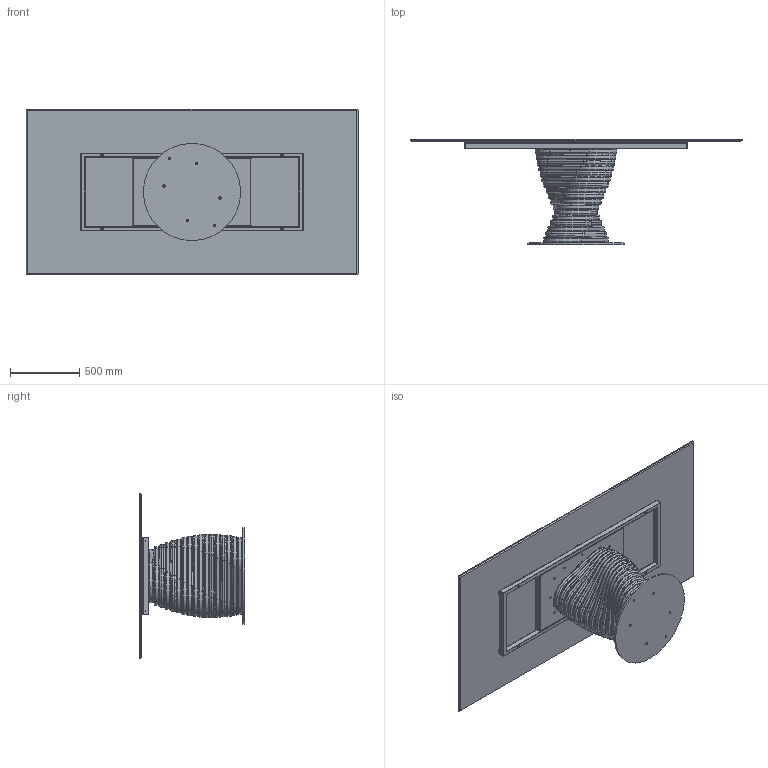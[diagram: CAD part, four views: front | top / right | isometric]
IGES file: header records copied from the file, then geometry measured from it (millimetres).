
Start section: SolidWorks IGES file using analytic representation for surfaces
Global section: file name: Y:\eforma\TECNICO\SOLIDWORKS\E-FORMA\1-TAVOLI\ROTOLO\02 parts\RO22C.IGS; native system: SolidWorks 2022; preprocessor: SolidWorks 2022; author: eforma.tech; date: 240807.153704; units: millimetre
Bounding box: 2390 x 758 x 1190 mm (x, y, z)
Volume: 58474631.4 mm3; surface area: 19310904.1 mm2
Topology: 99 solids, 99 shells, 1510 faces, 3584 edges, 2246 vertices
Faces by surface type: revolution 882, plane 628
